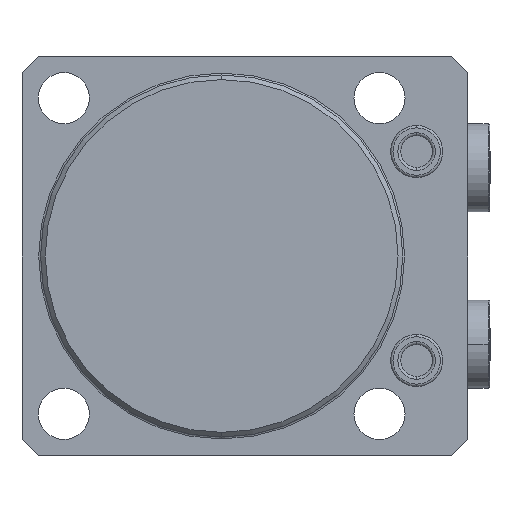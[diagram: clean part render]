
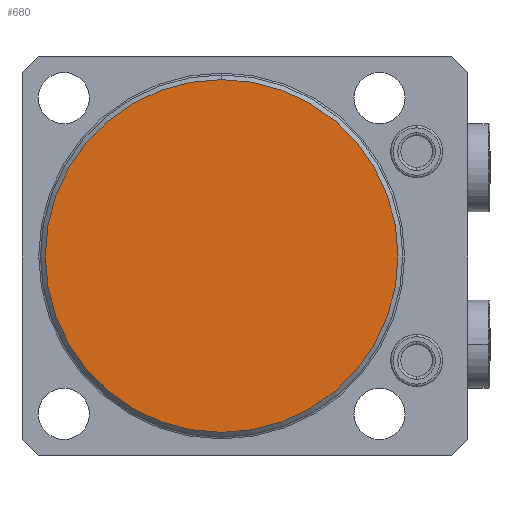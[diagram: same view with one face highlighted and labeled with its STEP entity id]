
A CAD part, front view. The second image highlights one B-rep face of the part: STEP entity #680.
In plain terms, the highlighted planar face has unit normal (0, -1, 0) as drawn and (0, 1, 0) by its records, which use the part's own axes.
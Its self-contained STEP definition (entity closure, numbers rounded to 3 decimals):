
#237=PLANE('',#4869);
#680=ADVANCED_FACE('',(#938),#237,.T.);
#938=FACE_OUTER_BOUND('',#1218,.F.);
#1218=EDGE_LOOP('',(#2831,#2832));
#2831=ORIENTED_EDGE('',*,*,#4047,.T.);
#2832=ORIENTED_EDGE('',*,*,#3955,.T.);
#3409=VERTEX_POINT('',#7424);
#3410=VERTEX_POINT('',#7425);
#3955=EDGE_CURVE('',#3409,#3410,#4356,.T.);
#4047=EDGE_CURVE('',#3410,#3409,#4375,.T.);
#4356=CIRCLE('',#4833,38.);
#4375=CIRCLE('',#4868,38.);
#4833=AXIS2_PLACEMENT_3D('',#7423,#6024,#6025);
#4868=AXIS2_PLACEMENT_3D('',#7690,#6143,#6144);
#4869=AXIS2_PLACEMENT_3D('',#7691,#6145,#6146);
#6024=DIRECTION('',(0.,-1.,0.));
#6025=DIRECTION('',(0.,0.,1.));
#6143=DIRECTION('',(0.,-1.,0.));
#6144=DIRECTION('',(0.,0.,1.));
#6145=DIRECTION('',(0.,1.,0.));
#6146=DIRECTION('',(0.,0.,1.));
#7423=CARTESIAN_POINT('',(0.,-55.,0.));
#7424=CARTESIAN_POINT('',(0.,-55.,-38.));
#7425=CARTESIAN_POINT('',(0.,-55.,38.));
#7690=CARTESIAN_POINT('',(0.,-55.,0.));
#7691=CARTESIAN_POINT('',(0.,-55.,0.));
